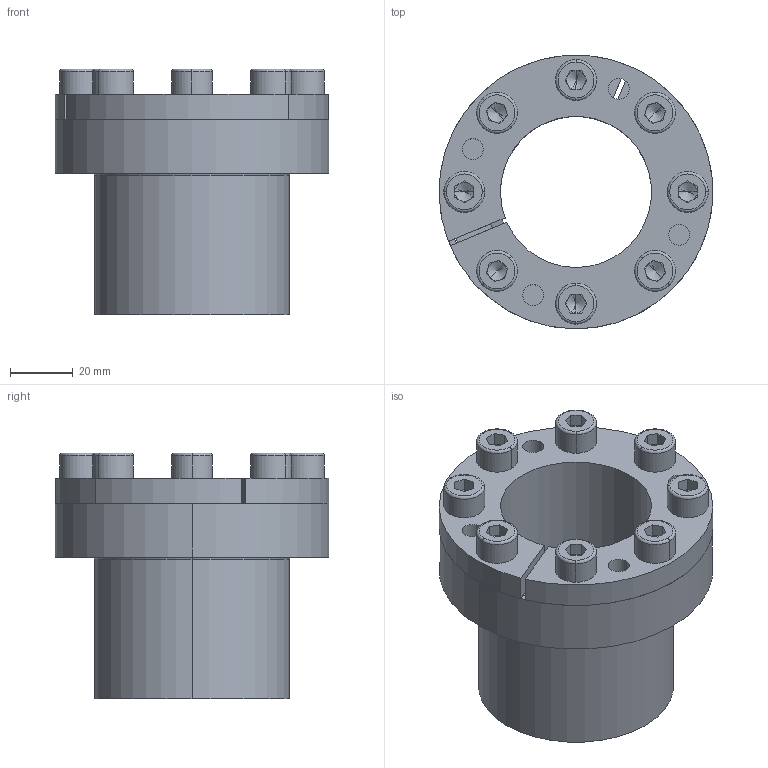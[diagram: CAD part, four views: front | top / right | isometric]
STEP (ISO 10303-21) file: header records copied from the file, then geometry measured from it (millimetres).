
FILE_DESCRIPTION (( 'STEP AP214' ), '1' );
FILE_NAME ('CONEX-B-48x62.step', '2013-04-04T12:42:06', ( 'Pc' ), ( '' ), 'SwSTEP 2.0', 'SolidWorks 2013', '' );
FILE_SCHEMA (( 'AUTOMOTIVE_DESIGN' ));
Length unit declared in the file: millimetre
Products named in the file (1): CONEX-B-48x62
Bounding box: 87 x 87 x 78.02 mm (x, y, z)
Volume: 145699.3 mm3; surface area: 79205.5 mm2
Topology: 11 solids, 11 shells, 296 faces, 682 edges, 408 vertices
Faces by surface type: plane 132, cylinder 88, torus 38, cone 38
Entity records: 11754 total; most frequent: DIRECTION 1578, CARTESIAN_POINT 1425, ORIENTED_EDGE 1332, EDGE_CURVE 666, AXIS2_PLACEMENT_3D 623, VERTEX_POINT 408, EDGE_LOOP 354, LINE 332
